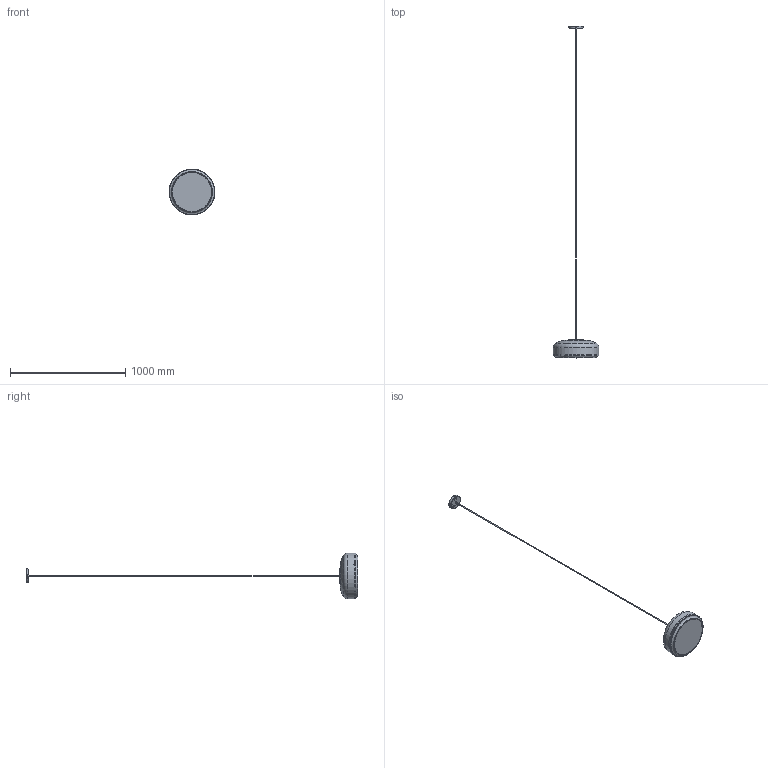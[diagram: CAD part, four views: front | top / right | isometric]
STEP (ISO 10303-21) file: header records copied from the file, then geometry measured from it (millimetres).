
FILE_DESCRIPTION(/* description */ ('','CAx-IF Rec.Pracs.---Representation and Presentation of Product Manufacturing Information (PMI)---4.0---2014-10-13'),/* implementation_level */ '2;1');
FILE_NAME(/* name */ 'C:\Users\KasperRoedWehage\Desktop\2440_Assembly.stp',/* time_stamp */ '2021-10-05T13:53:15+02:00',/* author */ ('KasperRoedWehage'),/* organization */ (''),/* preprocessor_version */ 'ST-DEVELOPER v18.1',/* originating_system */ 'Autodesk Inventor 2022',/* authorisation */ '');
FILE_SCHEMA (('AP242_MANAGED_MODEL_BASED_3D_ENGINEERING_MIM_LF { 1 0 10303 442 1 1 4 }'));
Products named in the file (38): 2440; 2440CP01; 2440CP03; 2440AS05; 2440CP04; 2440CP38; 2440CP34; 2440CP09; 2440CP10; 2440CP12; 2440CP13; 2440AS03; 2440CP14; 2440CP15; 2440CP16; 2440CP17; 2440CP18; 2440AS04; 2440CP19; 2440CP21; 2440CP32; 2440BP01; 2440CP20; 2440CP22; 2440CP25; 2440CP23; 2440CP24; 2440CP26; 2440CP27; 2440CP28; 2440CP31; 2440CP33; 2440CP02; 2440CP35; 2440CP11; 2440CP07; 2440CP36; 2440CP37
Assembly tree (55 placements, depth 3):
  2440
    2440CP01
    2440CP03
    2440AS05
      2440CP04
      2440CP38
    2440CP34
    2440CP07  x6
    2440CP09
    2440CP10
    2440CP11  x6
    2440CP12
    2440CP13
    2440AS03
      2440CP14
      2440CP15
      2440CP16
    2440CP17
    2440CP18
    2440AS04
      2440CP19
      2440CP21
      2440CP32  x2
      2440BP01
    2440CP20
    2440CP22  x2
    2440CP25
    2440CP23
    2440CP24
    2440CP26
    2440CP27
    2440CP28
    2440CP31  x4
    2440CP33  x2
    2440CP02
    2440CP35
    2440CP36  x3
    2440CP37
Bounding box: 399.57 x 2884.9 x 399.57 mm (x, y, z)
Volume: 1491127.8 mm3; surface area: 2803335.5 mm2
Topology: 251 solids, 265 shells, 4471 faces, 10957 edges, 7219 vertices
Faces by surface type: plane 3377, cylinder 621, cone 267, torus 137, bspline 36, sphere 33
Full cylindrical faces by diameter (mm): 1.5 x4, 2 x2, 2.1 x6, 2.459 x7, 2.5 x6, 2.6 x2, 2.729 x1, 2.75 x4, 3 x9, 3.1 x4, 3.242 x12, 3.459 x2, 3.75 x6, 4 x13, 4.917 x1, 5 x14, 5.8 x12, 6 x23, 6.3 x4, 7 x2, 7.2 x3, 8 x4, 8.376 x1, 8.5 x1, 9.5 x4, 10 x6, 10.5 x2, 12 x3, 14 x1, 15 x1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
Entity records: 129216 total; most frequent: CARTESIAN_POINT 25849, DIRECTION 20384, ORIENTED_EDGE 18980, EDGE_CURVE 9556, LINE 7564, VECTOR 7564, AXIS2_PLACEMENT_3D 6410, VERTEX_POINT 6310
